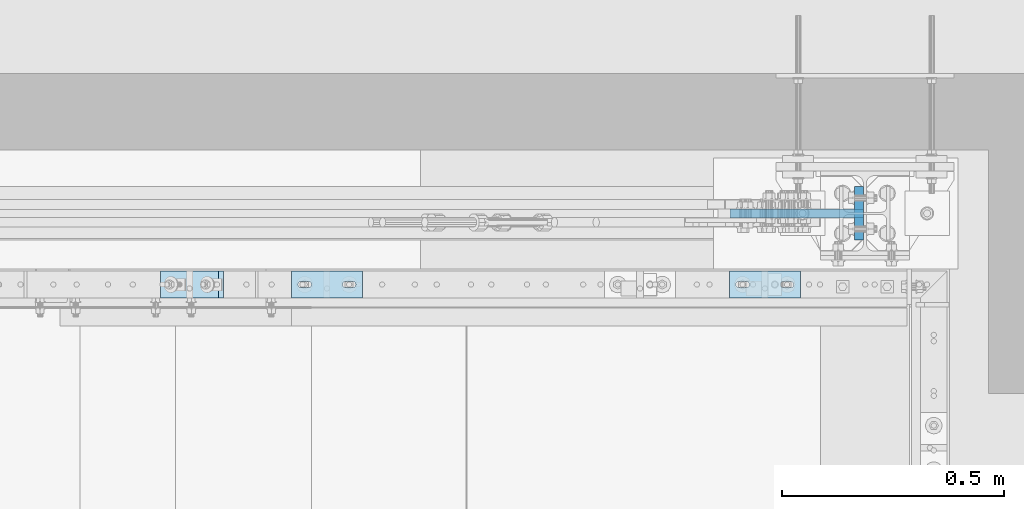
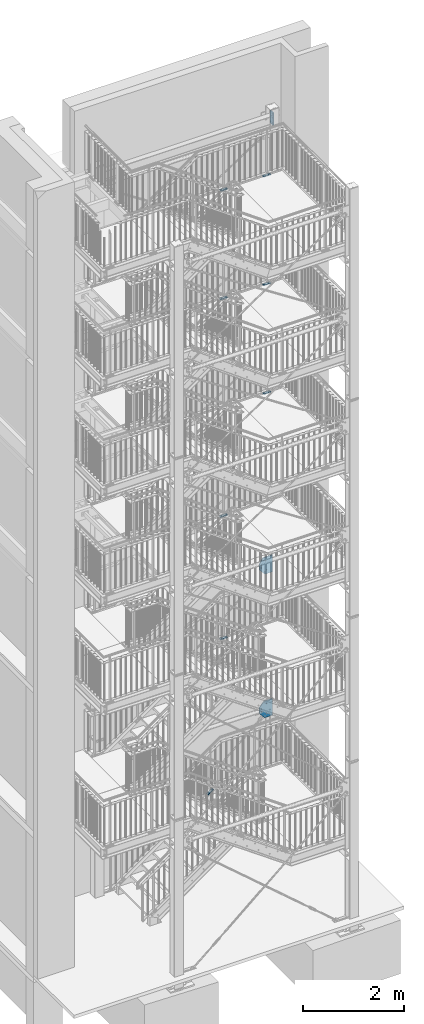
# One storey, part 213 of 831: 11 plates, 38 openings.
"""IFC2X3 building model written with IfcOpenShell, lengths in millimetres."""

from ifc_helpers import new_model, entity, si_unit, converted_unit, point, frame, frame_2d, origin, origin_with_axes, origin_2d_with_axis, place, context, project, spatial, polyline, circle_curve, line_curve, trimmed, segment, composite_curve, circle, outline, extrude, material, layer, layer_set, element, save


model = new_model("IFC2X3")

# Units and contexts
model_context = context("Model", 3, precision=1e-09, world=origin_with_axes())
ifc_project = project(units=[si_unit("LENGTHUNIT", "METRE", prefix="MILLI"), si_unit("AREAUNIT", "SQUARE_METRE"), si_unit("VOLUMEUNIT", "CUBIC_METRE"), converted_unit("PLANEANGLEUNIT", "DEGREE", entity("IfcPlaneAngleMeasure", 0.01745329), si_unit("PLANEANGLEUNIT", "RADIAN"), dimensions=[0, 0, 0, 0, 0, 0, 0])], contexts=[model_context])

# Site, building, storey
site_placement = place(None, origin_with_axes())
site = spatial("IfcSite", under=ifc_project, at=site_placement, Name="Site", CompositionType="ELEMENT")
building_placement = place(site_placement, origin_with_axes())
building = spatial("IfcBuilding", under=site, at=building_placement, Name="Struktur 1", CompositionType="ELEMENT")
storey_placement = place(building_placement, origin_with_axes())
storey = spatial("IfcBuildingStorey", under=building, at=storey_placement, Name="Default Storey", CompositionType="ELEMENT", Elevation=0.0)

# Plate, openings
ifc_material = material(Name="S235JR")
ifc_layer = layer(ifc_material, 20.0)
ifc_layer_set = layer_set([ifc_layer], Name="S235JR")
plate_1_placement = place(None, frame((8721.713974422, 7386.736971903, 11265.5000003), z_axis=(0.0, 0.0, 1.0), x_axis=(-1.0, 0.0, 0.0)))
plate_1 = element("IfcPlate", 1, at=plate_1_placement, inside=storey, material=ifc_layer_set, Name="Plate#504", ObjectType="Plate#504", context=model_context, shape_type="SweptSolid", body=[
    extrude(outline(polyline([(0.0, 0.0), (160.0, 0.0), (160.0, 60.0), (0.0, 60.0), (0.0, 0.0)])), origin_with_axes(), (0.0, 0.0, 1.0), 20.0),
])
opening_1_placement = place(plate_1_placement, frame((38.0, 37.001, 20.5), z_axis=(0.0, 0.0, 1.0), x_axis=(-1.0, 0.0, 0.0)))
element("IfcOpeningElement", 2, at=opening_1_placement, cuts=plate_1, ObjectType="Opening", context=model_context, shape_type="SweptSolid", body=[
    extrude(outline(composite_curve([segment(trimmed(line_curve((0.0, 0.0), (1.0, 0.0), 16.0), [point((0.0, 0.0))], [point((16.0, 0.0))], True, "CARTESIAN"), True, "CONTINUOUS"), segment(trimmed(circle_curve(frame_2d((16.0, 7.001), x_axis=(1.0, 0.0)), 7.001), [point((16.0, 0.0))], [point((16.0, 14.002))], True, "CARTESIAN"), True, "CONTINUOUS"), segment(trimmed(line_curve((16.0, 14.002), (-1.0, 0.0), 16.0), [point((16.0, 14.002))], [point((0.0, 14.002))], True, "CARTESIAN"), True, "CONTINUOUS"), segment(trimmed(circle_curve(frame_2d((0.0, 7.001), x_axis=(1.0, 0.0)), 7.001), [point((0.0, 14.002))], [point((0.0, 0.0))], True, "CARTESIAN"), True, "CONTINUOUS")], self_intersect=False)), origin(), (0.0, 0.0, -1.0), 21.0),
])
opening_2_placement = place(plate_1_placement, frame((138.0, 37.001, 20.5), z_axis=(0.0, 0.0, 1.0), x_axis=(-1.0, 0.0, 0.0)))
element("IfcOpeningElement", 3, at=opening_2_placement, cuts=plate_1, ObjectType="Opening", context=model_context, shape_type="SweptSolid", body=[
    extrude(outline(composite_curve([segment(trimmed(line_curve((0.0, 0.0), (1.0, 0.0), 16.0), [point((0.0, 0.0))], [point((16.0, 0.0))], True, "CARTESIAN"), True, "CONTINUOUS"), segment(trimmed(circle_curve(frame_2d((16.0, 7.001), x_axis=(1.0, 0.0)), 7.001), [point((16.0, 0.0))], [point((16.0, 14.002))], True, "CARTESIAN"), True, "CONTINUOUS"), segment(trimmed(line_curve((16.0, 14.002), (-1.0, 0.0), 16.0), [point((16.0, 14.002))], [point((0.0, 14.002))], True, "CARTESIAN"), True, "CONTINUOUS"), segment(trimmed(circle_curve(frame_2d((0.0, 7.001), x_axis=(1.0, 0.0)), 7.001), [point((0.0, 14.002))], [point((0.0, 0.0))], True, "CARTESIAN"), True, "CONTINUOUS")], self_intersect=False)), origin(), (0.0, 0.0, -1.0), 21.0),
])

plate_2_placement = place(None, frame((7736.713831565, 7386.736971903, 13896.5000001), z_axis=(0.0, 0.0, 1.0), x_axis=(-1.0, 0.0, 0.0)))
plate_2 = element("IfcPlate", 4, at=plate_2_placement, inside=storey, material=ifc_layer_set, Name="Plate#503", ObjectType="Plate#503", context=model_context, shape_type="SweptSolid", body=[
    extrude(outline(polyline([(0.0, 0.0), (160.0, 0.0), (160.0, 60.0), (0.0, 60.0), (0.0, 0.0)])), origin_with_axes(), (0.0, 0.0, 1.0), 20.0),
])
opening_3_placement = place(plate_2_placement, frame((38.0, 37.001, 20.5), z_axis=(0.0, 0.0, 1.0), x_axis=(-1.0, 0.0, 0.0)))
element("IfcOpeningElement", 5, at=opening_3_placement, cuts=plate_2, ObjectType="Opening", context=model_context, shape_type="SweptSolid", body=[
    extrude(outline(composite_curve([segment(trimmed(line_curve((0.0, 0.0), (1.0, 0.0), 16.0), [point((0.0, 0.0))], [point((16.0, 0.0))], True, "CARTESIAN"), True, "CONTINUOUS"), segment(trimmed(circle_curve(frame_2d((16.0, 7.001), x_axis=(1.0, 0.0)), 7.001), [point((16.0, 0.0))], [point((16.0, 14.002))], True, "CARTESIAN"), True, "CONTINUOUS"), segment(trimmed(line_curve((16.0, 14.002), (-1.0, 0.0), 16.0), [point((16.0, 14.002))], [point((0.0, 14.002))], True, "CARTESIAN"), True, "CONTINUOUS"), segment(trimmed(circle_curve(frame_2d((0.0, 7.001), x_axis=(1.0, 0.0)), 7.001), [point((0.0, 14.002))], [point((0.0, 0.0))], True, "CARTESIAN"), True, "CONTINUOUS")], self_intersect=False)), origin(), (0.0, 0.0, -1.0), 21.0),
])
opening_4_placement = place(plate_2_placement, frame((138.0, 37.001, 20.5), z_axis=(0.0, 0.0, 1.0), x_axis=(-1.0, 0.0, 0.0)))
element("IfcOpeningElement", 6, at=opening_4_placement, cuts=plate_2, ObjectType="Opening", context=model_context, shape_type="SweptSolid", body=[
    extrude(outline(composite_curve([segment(trimmed(line_curve((0.0, 0.0), (1.0, 0.0), 16.0), [point((0.0, 0.0))], [point((16.0, 0.0))], True, "CARTESIAN"), True, "CONTINUOUS"), segment(trimmed(circle_curve(frame_2d((16.0, 7.001), x_axis=(1.0, 0.0)), 7.001), [point((16.0, 0.0))], [point((16.0, 14.002))], True, "CARTESIAN"), True, "CONTINUOUS"), segment(trimmed(line_curve((16.0, 14.002), (-1.0, 0.0), 16.0), [point((16.0, 14.002))], [point((0.0, 14.002))], True, "CARTESIAN"), True, "CONTINUOUS"), segment(trimmed(circle_curve(frame_2d((0.0, 7.001), x_axis=(1.0, 0.0)), 7.001), [point((0.0, 14.002))], [point((0.0, 0.0))], True, "CARTESIAN"), True, "CONTINUOUS")], self_intersect=False)), origin(), (0.0, 0.0, -1.0), 21.0),
])

plate_3_placement = place(None, frame((8721.713974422, 7386.736971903, 13896.5000001), z_axis=(0.0, 0.0, 1.0), x_axis=(-1.0, 0.0, 0.0)))
plate_3 = element("IfcPlate", 7, at=plate_3_placement, inside=storey, material=ifc_layer_set, Name="Plate#504", ObjectType="Plate#504", context=model_context, shape_type="SweptSolid", body=[
    extrude(outline(polyline([(0.0, 0.0), (160.0, 0.0), (160.0, 60.0), (0.0, 60.0), (0.0, 0.0)])), origin_with_axes(), (0.0, 0.0, 1.0), 20.0),
])
opening_5_placement = place(plate_3_placement, frame((38.0, 37.001, 20.5), z_axis=(0.0, 0.0, 1.0), x_axis=(-1.0, 0.0, 0.0)))
element("IfcOpeningElement", 8, at=opening_5_placement, cuts=plate_3, ObjectType="Opening", context=model_context, shape_type="SweptSolid", body=[
    extrude(outline(composite_curve([segment(trimmed(line_curve((0.0, 0.0), (1.0, 0.0), 16.0), [point((0.0, 0.0))], [point((16.0, 0.0))], True, "CARTESIAN"), True, "CONTINUOUS"), segment(trimmed(circle_curve(frame_2d((16.0, 7.001), x_axis=(1.0, 0.0)), 7.001), [point((16.0, 0.0))], [point((16.0, 14.002))], True, "CARTESIAN"), True, "CONTINUOUS"), segment(trimmed(line_curve((16.0, 14.002), (-1.0, 0.0), 16.0), [point((16.0, 14.002))], [point((0.0, 14.002))], True, "CARTESIAN"), True, "CONTINUOUS"), segment(trimmed(circle_curve(frame_2d((0.0, 7.001), x_axis=(1.0, 0.0)), 7.001), [point((0.0, 14.002))], [point((0.0, 0.0))], True, "CARTESIAN"), True, "CONTINUOUS")], self_intersect=False)), origin(), (0.0, 0.0, -1.0), 21.0),
])
opening_6_placement = place(plate_3_placement, frame((138.0, 37.001, 20.5), z_axis=(0.0, 0.0, 1.0), x_axis=(-1.0, 0.0, 0.0)))
element("IfcOpeningElement", 9, at=opening_6_placement, cuts=plate_3, ObjectType="Opening", context=model_context, shape_type="SweptSolid", body=[
    extrude(outline(composite_curve([segment(trimmed(line_curve((0.0, 0.0), (1.0, 0.0), 16.0), [point((0.0, 0.0))], [point((16.0, 0.0))], True, "CARTESIAN"), True, "CONTINUOUS"), segment(trimmed(circle_curve(frame_2d((16.0, 7.001), x_axis=(1.0, 0.0)), 7.001), [point((16.0, 0.0))], [point((16.0, 14.002))], True, "CARTESIAN"), True, "CONTINUOUS"), segment(trimmed(line_curve((16.0, 14.002), (-1.0, 0.0), 16.0), [point((16.0, 14.002))], [point((0.0, 14.002))], True, "CARTESIAN"), True, "CONTINUOUS"), segment(trimmed(circle_curve(frame_2d((0.0, 7.001), x_axis=(1.0, 0.0)), 7.001), [point((0.0, 14.002))], [point((0.0, 0.0))], True, "CARTESIAN"), True, "CONTINUOUS")], self_intersect=False)), origin(), (0.0, 0.0, -1.0), 21.0),
])

plate_4_placement = place(None, frame((7736.713831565, 7386.736971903, 16524.0000003), z_axis=(0.0, 0.0, 1.0), x_axis=(-1.0, 0.0, 0.0)))
plate_4 = element("IfcPlate", 10, at=plate_4_placement, inside=storey, material=ifc_layer_set, Name="Plate#503", ObjectType="Plate#503", context=model_context, shape_type="SweptSolid", body=[
    extrude(outline(polyline([(0.0, 0.0), (160.0, 0.0), (160.0, 60.0), (0.0, 60.0), (0.0, 0.0)])), origin_with_axes(), (0.0, 0.0, 1.0), 20.0),
])
opening_7_placement = place(plate_4_placement, frame((38.0, 37.001, 20.5), z_axis=(0.0, 0.0, 1.0), x_axis=(-1.0, 0.0, 0.0)))
element("IfcOpeningElement", 11, at=opening_7_placement, cuts=plate_4, ObjectType="Opening", context=model_context, shape_type="SweptSolid", body=[
    extrude(outline(composite_curve([segment(trimmed(line_curve((0.0, 0.0), (1.0, 0.0), 16.0), [point((0.0, 0.0))], [point((16.0, 0.0))], True, "CARTESIAN"), True, "CONTINUOUS"), segment(trimmed(circle_curve(frame_2d((16.0, 7.001), x_axis=(1.0, 0.0)), 7.001), [point((16.0, 0.0))], [point((16.0, 14.002))], True, "CARTESIAN"), True, "CONTINUOUS"), segment(trimmed(line_curve((16.0, 14.002), (-1.0, 0.0), 16.0), [point((16.0, 14.002))], [point((0.0, 14.002))], True, "CARTESIAN"), True, "CONTINUOUS"), segment(trimmed(circle_curve(frame_2d((0.0, 7.001), x_axis=(1.0, 0.0)), 7.001), [point((0.0, 14.002))], [point((0.0, 0.0))], True, "CARTESIAN"), True, "CONTINUOUS")], self_intersect=False)), origin(), (0.0, 0.0, -1.0), 21.0),
])
opening_8_placement = place(plate_4_placement, frame((138.0, 37.001, 20.5), z_axis=(0.0, 0.0, 1.0), x_axis=(-1.0, 0.0, 0.0)))
element("IfcOpeningElement", 12, at=opening_8_placement, cuts=plate_4, ObjectType="Opening", context=model_context, shape_type="SweptSolid", body=[
    extrude(outline(composite_curve([segment(trimmed(line_curve((0.0, 0.0), (1.0, 0.0), 16.0), [point((0.0, 0.0))], [point((16.0, 0.0))], True, "CARTESIAN"), True, "CONTINUOUS"), segment(trimmed(circle_curve(frame_2d((16.0, 7.001), x_axis=(1.0, 0.0)), 7.001), [point((16.0, 0.0))], [point((16.0, 14.002))], True, "CARTESIAN"), True, "CONTINUOUS"), segment(trimmed(line_curve((16.0, 14.002), (-1.0, 0.0), 16.0), [point((16.0, 14.002))], [point((0.0, 14.002))], True, "CARTESIAN"), True, "CONTINUOUS"), segment(trimmed(circle_curve(frame_2d((0.0, 7.001), x_axis=(1.0, 0.0)), 7.001), [point((0.0, 14.002))], [point((0.0, 0.0))], True, "CARTESIAN"), True, "CONTINUOUS")], self_intersect=False)), origin(), (0.0, 0.0, -1.0), 21.0),
])

plate_5_placement = place(None, frame((8721.713974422, 7386.736971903, 16524.0000003), z_axis=(0.0, 0.0, 1.0), x_axis=(-1.0, 0.0, 0.0)))
plate_5 = element("IfcPlate", 13, at=plate_5_placement, inside=storey, material=ifc_layer_set, Name="Plate#504", ObjectType="Plate#504", context=model_context, shape_type="SweptSolid", body=[
    extrude(outline(polyline([(0.0, 0.0), (160.0, 0.0), (160.0, 60.0), (0.0, 60.0), (0.0, 0.0)])), origin_with_axes(), (0.0, 0.0, 1.0), 20.0),
])
opening_9_placement = place(plate_5_placement, frame((38.0, 37.001, 20.5), z_axis=(0.0, 0.0, 1.0), x_axis=(-1.0, 0.0, 0.0)))
element("IfcOpeningElement", 14, at=opening_9_placement, cuts=plate_5, ObjectType="Opening", context=model_context, shape_type="SweptSolid", body=[
    extrude(outline(composite_curve([segment(trimmed(line_curve((0.0, 0.0), (1.0, 0.0), 16.0), [point((0.0, 0.0))], [point((16.0, 0.0))], True, "CARTESIAN"), True, "CONTINUOUS"), segment(trimmed(circle_curve(frame_2d((16.0, 7.001), x_axis=(1.0, 0.0)), 7.001), [point((16.0, 0.0))], [point((16.0, 14.002))], True, "CARTESIAN"), True, "CONTINUOUS"), segment(trimmed(line_curve((16.0, 14.002), (-1.0, 0.0), 16.0), [point((16.0, 14.002))], [point((0.0, 14.002))], True, "CARTESIAN"), True, "CONTINUOUS"), segment(trimmed(circle_curve(frame_2d((0.0, 7.001), x_axis=(1.0, 0.0)), 7.001), [point((0.0, 14.002))], [point((0.0, 0.0))], True, "CARTESIAN"), True, "CONTINUOUS")], self_intersect=False)), origin(), (0.0, 0.0, -1.0), 21.0),
])
opening_10_placement = place(plate_5_placement, frame((138.0, 37.001, 20.5), z_axis=(0.0, 0.0, 1.0), x_axis=(-1.0, 0.0, 0.0)))
element("IfcOpeningElement", 15, at=opening_10_placement, cuts=plate_5, ObjectType="Opening", context=model_context, shape_type="SweptSolid", body=[
    extrude(outline(composite_curve([segment(trimmed(line_curve((0.0, 0.0), (1.0, 0.0), 16.0), [point((0.0, 0.0))], [point((16.0, 0.0))], True, "CARTESIAN"), True, "CONTINUOUS"), segment(trimmed(circle_curve(frame_2d((16.0, 7.001), x_axis=(1.0, 0.0)), 7.001), [point((16.0, 0.0))], [point((16.0, 14.002))], True, "CARTESIAN"), True, "CONTINUOUS"), segment(trimmed(line_curve((16.0, 14.002), (-1.0, 0.0), 16.0), [point((16.0, 14.002))], [point((0.0, 14.002))], True, "CARTESIAN"), True, "CONTINUOUS"), segment(trimmed(circle_curve(frame_2d((0.0, 7.001), x_axis=(1.0, 0.0)), 7.001), [point((0.0, 14.002))], [point((0.0, 0.0))], True, "CARTESIAN"), True, "CONTINUOUS")], self_intersect=False)), origin(), (0.0, 0.0, -1.0), 21.0),
])

plate_6_placement = place(None, frame((8843.463402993, 7516.736971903, 17753.999999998), z_axis=(1.0, 0.0, 0.0), x_axis=(0.0, 0.0, -1.0)))
plate_6 = element("IfcPlate", 16, at=plate_6_placement, inside=storey, material=ifc_layer_set, Name="Endplate", ObjectType="Endplate", context=model_context, shape_type="SweptSolid", body=[
    extrude(outline(polyline([(-150.0, -60.0), (150.0, -60.0), (150.0, 60.0), (-150.0, 60.0), (-150.0, -60.0)])), origin_with_axes(), (0.0, 0.0, 1.0), 20.0),
])
opening_11_placement = place(plate_6_placement, frame((-55.2, 18.1, 20.5), z_axis=(0.0, 0.0, -1.0), x_axis=(-1.0, 0.0, 0.0)))
element("IfcOpeningElement", 17, at=opening_11_placement, cuts=plate_6, ObjectType="Opening", context=model_context, shape_type="SweptSolid", body=[
    extrude(circle(Radius=6.001, at=origin_2d_with_axis()), origin(), (0.0, 0.0, 1.0), 21.0),
])
opening_12_placement = place(plate_6_placement, frame((135.2, 18.1, 20.5), z_axis=(0.0, 0.0, -1.0), x_axis=(-1.0, 0.0, 0.0)))
element("IfcOpeningElement", 18, at=opening_12_placement, cuts=plate_6, ObjectType="Opening", context=model_context, shape_type="SweptSolid", body=[
    extrude(circle(Radius=6.001, at=origin_2d_with_axis()), origin(), (0.0, 0.0, 1.0), 21.0),
])
opening_13_placement = place(plate_6_placement, frame((135.2, -18.1, 20.5), z_axis=(0.0, 0.0, -1.0), x_axis=(-1.0, 0.0, 0.0)))
element("IfcOpeningElement", 19, at=opening_13_placement, cuts=plate_6, ObjectType="Opening", context=model_context, shape_type="SweptSolid", body=[
    extrude(circle(Radius=6.001, at=origin_2d_with_axis()), origin(), (0.0, 0.0, 1.0), 21.0),
])
opening_14_placement = place(plate_6_placement, frame((-55.2, -18.1, 20.5), z_axis=(0.0, 0.0, -1.0), x_axis=(-1.0, 0.0, 0.0)))
element("IfcOpeningElement", 20, at=opening_14_placement, cuts=plate_6, ObjectType="Opening", context=model_context, shape_type="SweptSolid", body=[
    extrude(circle(Radius=6.001, at=origin_2d_with_axis()), origin(), (0.0, 0.0, 1.0), 21.0),
])
opening_15_placement = place(plate_6_placement, frame((100.0, -35.0, 20.5), z_axis=(0.0, 0.0, -1.0), x_axis=(0.0, -1.0, 0.0)))
element("IfcOpeningElement", 21, at=opening_15_placement, cuts=plate_6, ObjectType="Opening", context=model_context, shape_type="SweptSolid", body=[
    extrude(circle(Radius=9.001, at=origin_2d_with_axis()), origin(), (0.0, 0.0, 1.0), 21.0),
])
opening_16_placement = place(plate_6_placement, frame((100.0, 35.0, 20.5), z_axis=(0.0, 0.0, -1.0), x_axis=(0.0, 1.0, 0.0)))
element("IfcOpeningElement", 22, at=opening_16_placement, cuts=plate_6, ObjectType="Opening", context=model_context, shape_type="SweptSolid", body=[
    extrude(circle(Radius=9.001, at=origin_2d_with_axis()), origin(), (0.0, 0.0, 1.0), 21.0),
])
opening_17_placement = place(plate_6_placement, frame((-20.0, -35.0, 20.5), z_axis=(0.0, 0.0, -1.0), x_axis=(0.0, -1.0, 0.0)))
element("IfcOpeningElement", 23, at=opening_17_placement, cuts=plate_6, ObjectType="Opening", context=model_context, shape_type="SweptSolid", body=[
    extrude(circle(Radius=9.001, at=origin_2d_with_axis()), origin(), (0.0, 0.0, 1.0), 21.0),
])
opening_18_placement = place(plate_6_placement, frame((-20.0, 35.0, 20.5), z_axis=(0.0, 0.0, -1.0), x_axis=(0.0, 1.0, 0.0)))
element("IfcOpeningElement", 24, at=opening_18_placement, cuts=plate_6, ObjectType="Opening", context=model_context, shape_type="SweptSolid", body=[
    extrude(circle(Radius=9.001, at=origin_2d_with_axis()), origin(), (0.0, 0.0, 1.0), 21.0),
])
opening_19_placement = place(plate_6_placement, frame((-120.0, -35.0, 20.5), z_axis=(0.0, 0.0, -1.0), x_axis=(0.0, -1.0, 0.0)))
element("IfcOpeningElement", 25, at=opening_19_placement, cuts=plate_6, ObjectType="Opening", context=model_context, shape_type="SweptSolid", body=[
    extrude(circle(Radius=9.001, at=origin_2d_with_axis()), origin(), (0.0, 0.0, 1.0), 21.0),
])
opening_20_placement = place(plate_6_placement, frame((-120.0, 35.0, 20.5), z_axis=(0.0, 0.0, -1.0), x_axis=(0.0, 1.0, 0.0)))
element("IfcOpeningElement", 26, at=opening_20_placement, cuts=plate_6, ObjectType="Opening", context=model_context, shape_type="SweptSolid", body=[
    extrude(circle(Radius=9.001, at=origin_2d_with_axis()), origin(), (0.0, 0.0, 1.0), 21.0),
])

plate_7_placement = place(None, frame((8863.463402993, 7506.736971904, 3302.430347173), z_axis=(0.0, -1.0, 0.0), x_axis=(0.0, 0.0, 1.0)))
plate_7 = element("IfcPlate", 27, at=plate_7_placement, inside=storey, material=ifc_layer_set, Name="-", ObjectType="-", context=model_context, shape_type="SweptSolid", body=[
    extrude(outline(polyline([(0.0, 0.0), (403.206365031, 0.0), (403.206365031, 192.087654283), (279.569648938, 300.0), (139.569648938, 300.0), (0.0, 181.139563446), (0.0, 0.0)])), origin_with_axes(), (0.0, 0.0, -1.0), 20.0),
])
opening_21_placement = place(plate_7_placement, frame((209.569648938, 260.0, -20.5), z_axis=(0.0, 0.0, 1.0), x_axis=(0.0, -1.0, 0.0)))
element("IfcOpeningElement", 28, at=opening_21_placement, cuts=plate_7, ObjectType="Opening", context=model_context, shape_type="SweptSolid", body=[
    extrude(circle(Radius=9.001, at=frame_2d((0.0, 30.0), x_axis=(1.0, 0.0))), origin(), (0.0, 0.0, 1.0), 21.0),
])
opening_22_placement = place(plate_7_placement, frame((209.569648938, 260.0, -20.5), z_axis=(0.0, 0.0, 1.0), x_axis=(0.0, -1.0, 0.0)))
element("IfcOpeningElement", 29, at=opening_22_placement, cuts=plate_7, ObjectType="Opening", context=model_context, shape_type="SweptSolid", body=[
    extrude(circle(Radius=9.001, at=frame_2d((0.0, -30.0), x_axis=(1.0, 0.0))), origin(), (0.0, 0.0, 1.0), 21.0),
])
opening_23_placement = place(plate_7_placement, frame((360.470508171, 170.983355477, -20.5), z_axis=(0.0, 0.0, -1.0), x_axis=(-1.0, 0.0, 0.0)))
element("IfcOpeningElement", 30, at=opening_23_placement, cuts=plate_7, ObjectType="Opening", context=model_context, shape_type="SweptSolid", body=[
    extrude(circle(Radius=9.001, at=frame_2d((-5.89276857, 6.803916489), x_axis=(1.0, 0.0))), origin(), (0.0, 0.0, -1.0), 21.0),
])
opening_24_placement = place(plate_7_placement, frame((321.189748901, 125.628951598, -20.5), z_axis=(0.0, 0.0, -1.0), x_axis=(-1.0, 0.0, 0.0)))
element("IfcOpeningElement", 31, at=opening_24_placement, cuts=plate_7, ObjectType="Opening", context=model_context, shape_type="SweptSolid", body=[
    extrude(circle(Radius=9.001, at=frame_2d((-5.89276857, 6.803916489), x_axis=(1.0, 0.0))), origin(), (0.0, 0.0, -1.0), 21.0),
])
opening_25_placement = place(plate_7_placement, frame((71.619889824, 156.998706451, -20.5), z_axis=(0.0, 0.0, 1.0), x_axis=(-0.652408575, 0.757867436, 0.0)))
element("IfcOpeningElement", 32, at=opening_25_placement, cuts=plate_7, ObjectType="Opening", context=model_context, shape_type="SweptSolid", body=[
    extrude(circle(Radius=9.001, at=frame_2d((30.0, 0.0), x_axis=(1.0, 0.0))), origin(), (0.0, 0.0, 1.0), 21.0),
])
opening_26_placement = place(plate_7_placement, frame((71.619889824, 156.998706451, -20.5), z_axis=(0.0, 0.0, 1.0), x_axis=(-0.652408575, 0.757867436, 0.0)))
element("IfcOpeningElement", 33, at=opening_26_placement, cuts=plate_7, ObjectType="Opening", context=model_context, shape_type="SweptSolid", body=[
    extrude(circle(Radius=9.001, at=frame_2d((-30.0, 0.0), x_axis=(1.0, 0.0))), origin(), (0.0, 0.0, 1.0), 21.0),
])

plate_8_placement = place(None, frame((8863.463402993, 7526.736971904, 7178.428402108), z_axis=(0.0, 1.0, 0.0), x_axis=(0.0, 0.0, -1.0)))
plate_8 = element("IfcPlate", 34, at=plate_8_placement, inside=storey, material=ifc_layer_set, Name="-", ObjectType="-", context=model_context, shape_type="SweptSolid", body=[
    extrude(outline(polyline([(0.0, 0.0), (404.06512209, 0.0), (404.06512209, 177.249749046), (263.428405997, 300.0), (123.428405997, 300.0), (0.0, 219.202103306), (0.0, 0.0)])), origin_with_axes(), (0.0, 0.0, -1.0), 20.0),
])
opening_27_placement = place(plate_8_placement, frame((193.428405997, 260.0, 0.5), z_axis=(0.0, 0.0, -1.0), x_axis=(0.0, -1.0, 0.0)))
element("IfcOpeningElement", 35, at=opening_27_placement, cuts=plate_8, ObjectType="Opening", context=model_context, shape_type="SweptSolid", body=[
    extrude(circle(Radius=9.001, at=frame_2d((0.0, 30.0), x_axis=(1.0, 0.0))), origin(), (0.0, 0.0, 1.0), 21.0),
])
opening_28_placement = place(plate_8_placement, frame((193.428405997, 260.0, 0.5), z_axis=(0.0, 0.0, -1.0), x_axis=(0.0, -1.0, 0.0)))
element("IfcOpeningElement", 36, at=opening_28_placement, cuts=plate_8, ObjectType="Opening", context=model_context, shape_type="SweptSolid", body=[
    extrude(circle(Radius=9.001, at=frame_2d((0.0, -30.0), x_axis=(1.0, 0.0))), origin(), (0.0, 0.0, 1.0), 21.0),
])
opening_29_placement = place(plate_8_placement, frame((57.299912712, 204.149413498, 0.5), z_axis=(0.0, 0.0, 1.0), x_axis=(1.0, 0.0, 0.0)))
element("IfcOpeningElement", 37, at=opening_29_placement, cuts=plate_8, ObjectType="Opening", context=model_context, shape_type="SweptSolid", body=[
    extrude(circle(Radius=9.001, at=frame_2d((-4.939030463, 7.524890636), x_axis=(1.0, 0.0))), origin(), (0.0, 0.0, -1.0), 21.0),
])
opening_30_placement = place(plate_8_placement, frame((90.223124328, 153.989049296, 0.5), z_axis=(0.0, 0.0, 1.0), x_axis=(1.0, 0.0, 0.0)))
element("IfcOpeningElement", 38, at=opening_30_placement, cuts=plate_8, ObjectType="Opening", context=model_context, shape_type="SweptSolid", body=[
    extrude(circle(Radius=9.001, at=frame_2d((-4.939030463, 7.524890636), x_axis=(1.0, 0.0))), origin(), (0.0, 0.0, -1.0), 21.0),
])
opening_31_placement = place(plate_8_placement, frame((330.702941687, 155.250111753, 0.5), z_axis=(0.0, 0.0, -1.0), x_axis=(0.654679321, 0.755906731, 0.0)))
element("IfcOpeningElement", 39, at=opening_31_placement, cuts=plate_8, ObjectType="Opening", context=model_context, shape_type="SweptSolid", body=[
    extrude(circle(Radius=9.001, at=frame_2d((30.0, 0.0), x_axis=(1.0, 0.0))), origin(), (0.0, 0.0, 1.0), 21.0),
])
opening_32_placement = place(plate_8_placement, frame((330.702941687, 155.250111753, 0.5), z_axis=(0.0, 0.0, -1.0), x_axis=(0.654679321, 0.755906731, 0.0)))
element("IfcOpeningElement", 40, at=opening_32_placement, cuts=plate_8, ObjectType="Opening", context=model_context, shape_type="SweptSolid", body=[
    extrude(circle(Radius=9.001, at=frame_2d((-30.0, 0.0), x_axis=(1.0, 0.0))), origin(), (0.0, 0.0, 1.0), 21.0),
])

plate_9_placement = place(None, frame((7424.541805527, 7386.736971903, 2112.71507889), z_axis=(-0.579973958, 0.0, 0.814635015), x_axis=(-0.814635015, 0.0, -0.579973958)))
plate_9 = element("IfcPlate", 41, at=plate_9_placement, inside=storey, material=ifc_layer_set, Name="Plate#502", ObjectType="Plate#502", context=model_context, shape_type="SweptSolid", body=[
    extrude(outline(polyline([(0.0, 0.0), (160.0, 0.0), (160.0, 60.0), (0.0, 60.0), (0.0, 0.0)])), origin_with_axes(), (0.0, 0.0, 1.0), 20.0),
])
opening_33_placement = place(plate_9_placement, frame((38.0, 37.001, 20.5), z_axis=(0.0, 0.0, 1.0), x_axis=(-1.0, 0.0, 0.0)))
element("IfcOpeningElement", 42, at=opening_33_placement, cuts=plate_9, ObjectType="Opening", context=model_context, shape_type="SweptSolid", body=[
    extrude(outline(composite_curve([segment(trimmed(line_curve((0.0, 0.0), (1.0, 0.0), 16.0), [point((0.0, 0.0))], [point((16.0, 0.0))], True, "CARTESIAN"), True, "CONTINUOUS"), segment(trimmed(circle_curve(frame_2d((16.0, 7.001), x_axis=(1.0, 0.0)), 7.001), [point((16.0, 0.0))], [point((16.0, 14.002))], True, "CARTESIAN"), True, "CONTINUOUS"), segment(trimmed(line_curve((16.0, 14.002), (-1.0, 0.0), 16.0), [point((16.0, 14.002))], [point((0.0, 14.002))], True, "CARTESIAN"), True, "CONTINUOUS"), segment(trimmed(circle_curve(frame_2d((0.0, 7.001), x_axis=(1.0, 0.0)), 7.001), [point((0.0, 14.002))], [point((0.0, 0.0))], True, "CARTESIAN"), True, "CONTINUOUS")], self_intersect=False)), origin(), (0.0, 0.0, -1.0), 21.0),
])
opening_34_placement = place(plate_9_placement, frame((138.0, 37.001, 20.5), z_axis=(0.0, 0.0, 1.0), x_axis=(-1.0, 0.0, 0.0)))
element("IfcOpeningElement", 43, at=opening_34_placement, cuts=plate_9, ObjectType="Opening", context=model_context, shape_type="SweptSolid", body=[
    extrude(outline(composite_curve([segment(trimmed(line_curve((0.0, 0.0), (1.0, 0.0), 16.0), [point((0.0, 0.0))], [point((16.0, 0.0))], True, "CARTESIAN"), True, "CONTINUOUS"), segment(trimmed(circle_curve(frame_2d((16.0, 7.001), x_axis=(1.0, 0.0)), 7.001), [point((16.0, 0.0))], [point((16.0, 14.002))], True, "CARTESIAN"), True, "CONTINUOUS"), segment(trimmed(line_curve((16.0, 14.002), (-1.0, 0.0), 16.0), [point((16.0, 14.002))], [point((0.0, 14.002))], True, "CARTESIAN"), True, "CONTINUOUS"), segment(trimmed(circle_curve(frame_2d((0.0, 7.001), x_axis=(1.0, 0.0)), 7.001), [point((0.0, 14.002))], [point((0.0, 0.0))], True, "CARTESIAN"), True, "CONTINUOUS")], self_intersect=False)), origin(), (0.0, 0.0, -1.0), 21.0),
])

plate_10_placement = place(None, frame((7736.713831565, 7386.736971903, 5674.8947367), z_axis=(0.0, 0.0, 1.0), x_axis=(-1.0, 0.0, 0.0)))
plate_10 = element("IfcPlate", 44, at=plate_10_placement, inside=storey, material=ifc_layer_set, Name="Plate#503", ObjectType="Plate#503", context=model_context, shape_type="SweptSolid", body=[
    extrude(outline(polyline([(0.0, 0.0), (160.0, 0.0), (160.0, 60.0), (0.0, 60.0), (0.0, 0.0)])), origin_with_axes(), (0.0, 0.0, 1.0), 20.0),
])
opening_35_placement = place(plate_10_placement, frame((38.0, 37.001, 20.5), z_axis=(0.0, 0.0, 1.0), x_axis=(-1.0, 0.0, 0.0)))
element("IfcOpeningElement", 45, at=opening_35_placement, cuts=plate_10, ObjectType="Opening", context=model_context, shape_type="SweptSolid", body=[
    extrude(outline(composite_curve([segment(trimmed(line_curve((0.0, 0.0), (1.0, 0.0), 16.0), [point((0.0, 0.0))], [point((16.0, 0.0))], True, "CARTESIAN"), True, "CONTINUOUS"), segment(trimmed(circle_curve(frame_2d((16.0, 7.001), x_axis=(1.0, 0.0)), 7.001), [point((16.0, 0.0))], [point((16.0, 14.002))], True, "CARTESIAN"), True, "CONTINUOUS"), segment(trimmed(line_curve((16.0, 14.002), (-1.0, 0.0), 16.0), [point((16.0, 14.002))], [point((0.0, 14.002))], True, "CARTESIAN"), True, "CONTINUOUS"), segment(trimmed(circle_curve(frame_2d((0.0, 7.001), x_axis=(1.0, 0.0)), 7.001), [point((0.0, 14.002))], [point((0.0, 0.0))], True, "CARTESIAN"), True, "CONTINUOUS")], self_intersect=False)), origin(), (0.0, 0.0, -1.0), 21.0),
])
opening_36_placement = place(plate_10_placement, frame((138.0, 37.001, 20.5), z_axis=(0.0, 0.0, 1.0), x_axis=(-1.0, 0.0, 0.0)))
element("IfcOpeningElement", 46, at=opening_36_placement, cuts=plate_10, ObjectType="Opening", context=model_context, shape_type="SweptSolid", body=[
    extrude(outline(composite_curve([segment(trimmed(line_curve((0.0, 0.0), (1.0, 0.0), 16.0), [point((0.0, 0.0))], [point((16.0, 0.0))], True, "CARTESIAN"), True, "CONTINUOUS"), segment(trimmed(circle_curve(frame_2d((16.0, 7.001), x_axis=(1.0, 0.0)), 7.001), [point((16.0, 0.0))], [point((16.0, 14.002))], True, "CARTESIAN"), True, "CONTINUOUS"), segment(trimmed(line_curve((16.0, 14.002), (-1.0, 0.0), 16.0), [point((16.0, 14.002))], [point((0.0, 14.002))], True, "CARTESIAN"), True, "CONTINUOUS"), segment(trimmed(circle_curve(frame_2d((0.0, 7.001), x_axis=(1.0, 0.0)), 7.001), [point((0.0, 14.002))], [point((0.0, 0.0))], True, "CARTESIAN"), True, "CONTINUOUS")], self_intersect=False)), origin(), (0.0, 0.0, -1.0), 21.0),
])

plate_11_placement = place(None, frame((7736.713831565, 7386.736971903, 8636.0), z_axis=(0.0, 0.0, 1.0), x_axis=(-1.0, 0.0, 0.0)))
plate_11 = element("IfcPlate", 47, at=plate_11_placement, inside=storey, material=ifc_layer_set, Name="Plate#503", ObjectType="Plate#503", context=model_context, shape_type="SweptSolid", body=[
    extrude(outline(polyline([(0.0, 0.0), (160.0, 0.0), (160.0, 60.0), (0.0, 60.0), (0.0, 0.0)])), origin_with_axes(), (0.0, 0.0, 1.0), 20.0),
])
opening_37_placement = place(plate_11_placement, frame((38.0, 37.001, 20.5), z_axis=(0.0, 0.0, 1.0), x_axis=(-1.0, 0.0, 0.0)))
element("IfcOpeningElement", 48, at=opening_37_placement, cuts=plate_11, ObjectType="Opening", context=model_context, shape_type="SweptSolid", body=[
    extrude(outline(composite_curve([segment(trimmed(line_curve((0.0, 0.0), (1.0, 0.0), 16.0), [point((0.0, 0.0))], [point((16.0, 0.0))], True, "CARTESIAN"), True, "CONTINUOUS"), segment(trimmed(circle_curve(frame_2d((16.0, 7.001), x_axis=(1.0, 0.0)), 7.001), [point((16.0, 0.0))], [point((16.0, 14.002))], True, "CARTESIAN"), True, "CONTINUOUS"), segment(trimmed(line_curve((16.0, 14.002), (-1.0, 0.0), 16.0), [point((16.0, 14.002))], [point((0.0, 14.002))], True, "CARTESIAN"), True, "CONTINUOUS"), segment(trimmed(circle_curve(frame_2d((0.0, 7.001), x_axis=(1.0, 0.0)), 7.001), [point((0.0, 14.002))], [point((0.0, 0.0))], True, "CARTESIAN"), True, "CONTINUOUS")], self_intersect=False)), origin(), (0.0, 0.0, -1.0), 21.0),
])
opening_38_placement = place(plate_11_placement, frame((138.0, 37.001, 20.5), z_axis=(0.0, 0.0, 1.0), x_axis=(-1.0, 0.0, 0.0)))
element("IfcOpeningElement", 49, at=opening_38_placement, cuts=plate_11, ObjectType="Opening", context=model_context, shape_type="SweptSolid", body=[
    extrude(outline(composite_curve([segment(trimmed(line_curve((0.0, 0.0), (1.0, 0.0), 16.0), [point((0.0, 0.0))], [point((16.0, 0.0))], True, "CARTESIAN"), True, "CONTINUOUS"), segment(trimmed(circle_curve(frame_2d((16.0, 7.001), x_axis=(1.0, 0.0)), 7.001), [point((16.0, 0.0))], [point((16.0, 14.002))], True, "CARTESIAN"), True, "CONTINUOUS"), segment(trimmed(line_curve((16.0, 14.002), (-1.0, 0.0), 16.0), [point((16.0, 14.002))], [point((0.0, 14.002))], True, "CARTESIAN"), True, "CONTINUOUS"), segment(trimmed(circle_curve(frame_2d((0.0, 7.001), x_axis=(1.0, 0.0)), 7.001), [point((0.0, 14.002))], [point((0.0, 0.0))], True, "CARTESIAN"), True, "CONTINUOUS")], self_intersect=False)), origin(), (0.0, 0.0, -1.0), 21.0),
])

save(model, "model.ifc")
